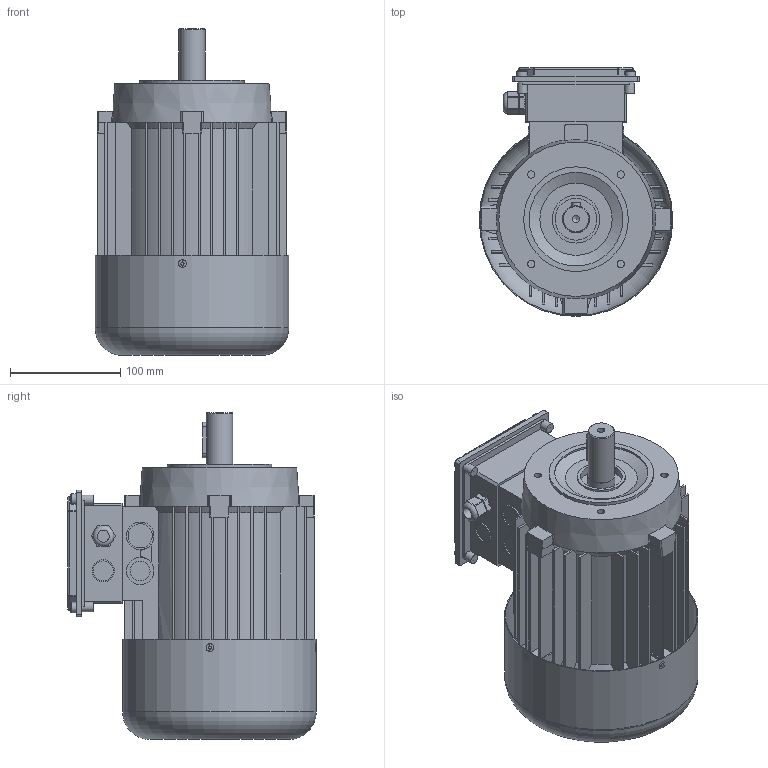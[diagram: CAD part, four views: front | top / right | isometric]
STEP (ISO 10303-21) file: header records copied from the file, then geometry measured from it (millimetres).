
FILE_DESCRIPTION(/* description */ (''),/* implementation_level */ '2;1');
FILE_NAME(/* name */ 'C:\Users\Public\Documents\Autodesk\Inventor LT 2014\Workspace\Componenti_ecoPM\3 - ECO5_90 (TG5)\ECO5_90x_xxA4.stp',/* time_stamp */ '2021-07-28T15:50:43+02:00',/* author */ ('marcor'),/* organization */ (''),/* preprocessor_version */ 'ST-DEVELOPER v15.2',/* originating_system */ 'Autodesk Inventor LT ',/* authorisation */ '');
FILE_SCHEMA (('AUTOMOTIVE_DESIGN { 1 0 10303 214 3 1 1 }'));
Length unit declared in the file: millimetre
Products named in the file (1): ECO5_90x_xxA4
Bounding box: 175.9 x 225.75 x 297 mm (x, y, z)
Volume: 3870546.8 mm3; surface area: 412487.5 mm2
Topology: 1 solids, 9 shells, 565 faces, 1482 edges, 956 vertices
Faces by surface type: plane 338, cylinder 139, cone 68, bspline 8, sphere 8, torus 4
Full cylindrical faces by diameter (mm): 2.85 x4, 4.134 x8, 6.647 x5, 7 x4, 9 x4, 9.5 x4, 11 x1, 16 x1, 16.9 x1, 17.294 x1, 18 x4, 20 x1, 22 x2, 24 x1, 24.9 x1, 25 x4, 38 x1, 40 x1, 43.3 x1, 85 x1, 95 x1, 174.5 x1, 175.9 x1
Entity records: 17162 total; most frequent: CARTESIAN_POINT 3852, DIRECTION 2732, ORIENTED_EDGE 2730, EDGE_CURVE 1365, AXIS2_PLACEMENT_3D 979, VERTEX_POINT 921, LINE 774, VECTOR 774
